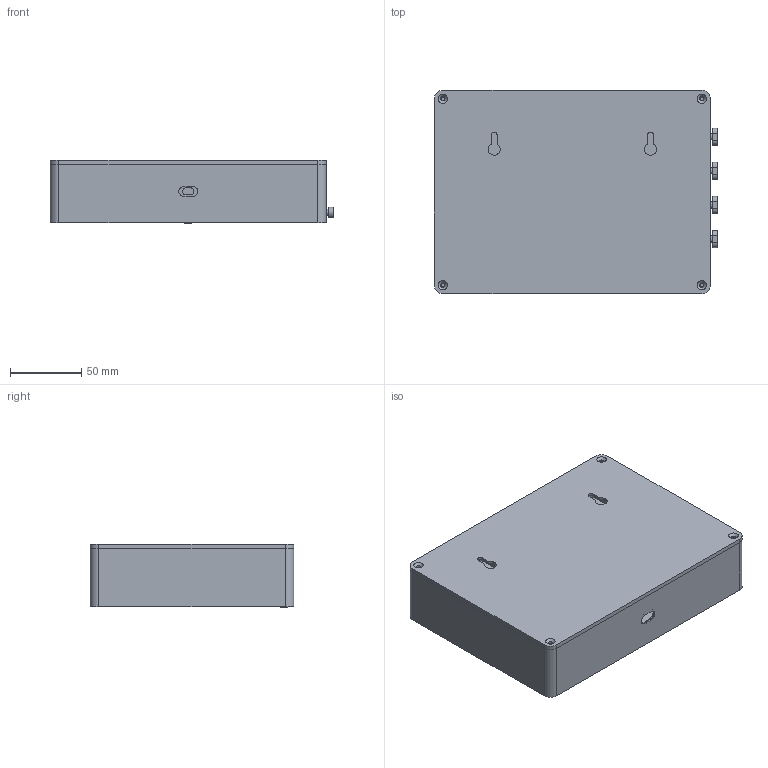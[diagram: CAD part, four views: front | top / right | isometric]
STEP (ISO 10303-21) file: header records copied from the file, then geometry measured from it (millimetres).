
FILE_DESCRIPTION(('Open CASCADE Model'),'2;1');
FILE_NAME('Open CASCADE Shape Model','2026-11-15T11:18:08',('Author'),( 'Open CASCADE'),'Open CASCADE STEP processor 7.8','Open CASCADE 7.8' ,'Unknown');
FILE_SCHEMA(('AUTOMOTIVE_DESIGN { 1 0 10303 214 1 1 1 1 }'));
Length unit declared in the file: millimetre
Products named in the file (13): Mount_Madonna_Inky_Case; body; back_panel; plunger_1; cap_1; plunger_2; cap_2; plunger_3; cap_3; plunger_4; cap_4; internal_connector_retainer; optional_led_blank
Assembly tree (12 placements, depth 2):
  Mount_Madonna_Inky_Case
    body
    back_panel
    plunger_1
    cap_1
    plunger_2
    cap_2
    plunger_3
    cap_3
    plunger_4
    cap_4
    internal_connector_retainer
    optional_led_blank
Bounding box: 199.4 x 143.2 x 44.8 mm (x, y, z)
Volume: 197187.4 mm3; surface area: 143852.8 mm2
Topology: 12 solids, 12 shells, 333 faces, 759 edges, 502 vertices
Faces by surface type: plane 172, cylinder 113, extrusion 40, cone 8
Full cylindrical faces by diameter (mm): 1.7 x10, 2.2 x6, 2.5 x4, 3 x1, 3.2 x1, 3.4 x4, 4 x2, 4.2 x4, 4.4 x8, 4.6 x4, 4.8 x1, 5 x4, 5.6 x4, 6 x4, 8.5 x4
Entity records: 21034 total; most frequent: CARTESIAN_POINT 5363, DIRECTION 2837, VECTOR 1629, LINE 1589, ORIENTED_EDGE 1518, PCURVE 1518, DEFINITIONAL_REPRESENTATION 1518, EDGE_CURVE 759
